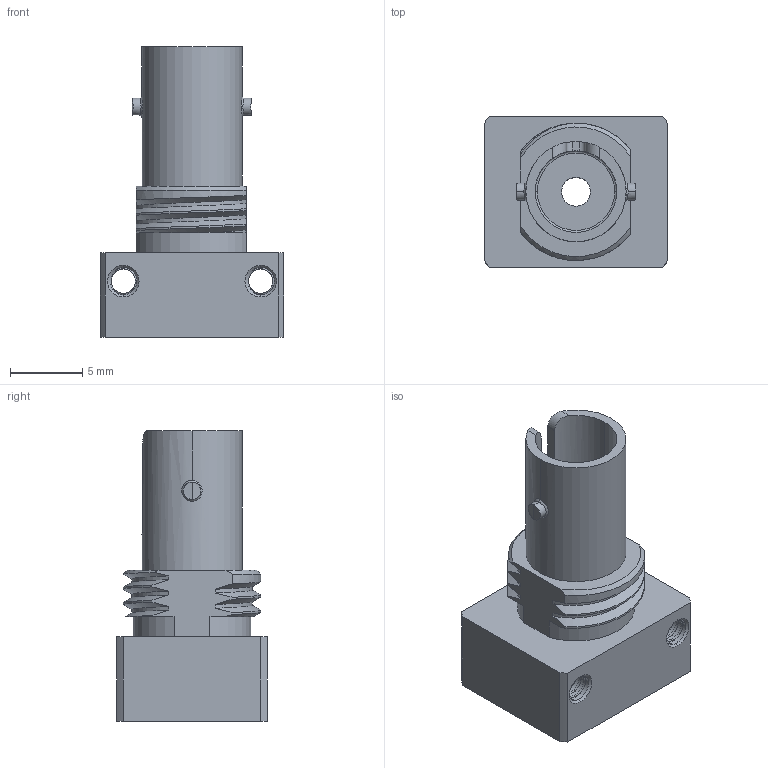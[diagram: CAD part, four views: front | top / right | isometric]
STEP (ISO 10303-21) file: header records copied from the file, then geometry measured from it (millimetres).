
FILE_DESCRIPTION (( 'STEP AP214' ), '1' );
FILE_NAME ('42 0642 - Website (STEP).STEP', '2025-09-05T19:56:45', ( '' ), ( '' ), 'SwSTEP 2.0', 'SolidWorks 2023', '' );
FILE_SCHEMA (( 'AUTOMOTIVE_DESIGN' ));
Length unit declared in the file: millimetre
Products named in the file (1): 42 0642 - Website (STEP)
Bounding box: 12.7 x 10.41 x 20.11 mm (x, y, z)
Volume: 956.7 mm3; surface area: 1401.6 mm2
Topology: 1 solids, 1 shells, 296 faces, 867 edges, 570 vertices
Faces by surface type: cylinder 166, bspline 85, plane 24, cone 19, torus 2
Entity records: 41555 total; most frequent: CARTESIAN_POINT 35433, ORIENTED_EDGE 1734, EDGE_CURVE 867, DIRECTION 778, VERTEX_POINT 570, EDGE_LOOP 307, ADVANCED_FACE 296, FACE_OUTER_BOUND 296
